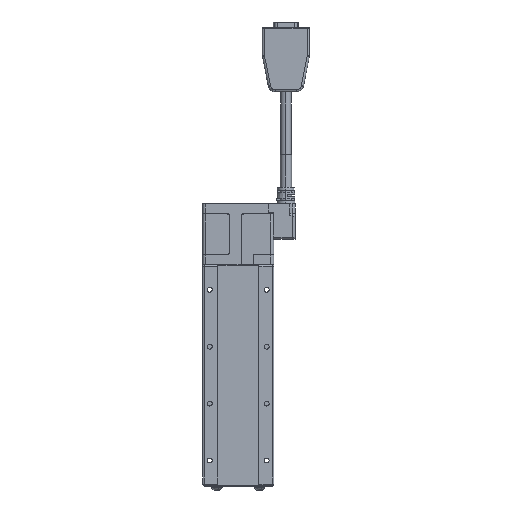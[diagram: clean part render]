
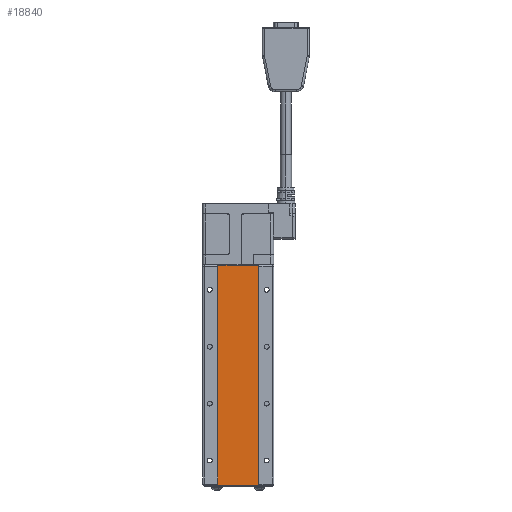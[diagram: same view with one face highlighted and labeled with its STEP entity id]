
A CAD part, front view. The second image highlights one B-rep face of the part: STEP entity #18840.
In plain terms, the highlighted planar face has unit normal (0, -1, 0).
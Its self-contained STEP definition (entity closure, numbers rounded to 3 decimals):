
#548 = VERTEX_POINT ( 'NONE', #71950 ) ;
#7458 = VERTEX_POINT ( 'NONE', #86684 ) ;
#18840 = ADVANCED_FACE ( 'NONE', ( #142174 ), #175360, .F. ) ;
#21532 = ORIENTED_EDGE ( 'NONE', *, *, #194960, .T. ) ;
#23937 = CARTESIAN_POINT ( 'NONE',  ( 14.3, 0.8, 0.2 ) ) ;
#24724 = VERTEX_POINT ( 'NONE', #176478 ) ;
#30654 = DIRECTION ( 'NONE',  ( -1., 0., 0. ) ) ;
#32886 = CARTESIAN_POINT ( 'NONE',  ( -14.3, 0.8, 154.8 ) ) ;
#35184 = CARTESIAN_POINT ( 'NONE',  ( -14.3, 0.8, 0.2 ) ) ;
#44006 = DIRECTION ( 'NONE',  ( 0., 0., -1. ) ) ;
#59008 = LINE ( 'NONE', #124390, #136346 ) ;
#61322 = EDGE_CURVE ( 'NONE', #24724, #548, #59008, .T. ) ;
#67136 = LINE ( 'NONE', #32886, #211299 ) ;
#68388 = DIRECTION ( 'NONE',  ( 1., 0., 0. ) ) ;
#71950 = CARTESIAN_POINT ( 'NONE',  ( -14.3, 0.8, 0.2 ) ) ;
#86684 = CARTESIAN_POINT ( 'NONE',  ( 14.3, 0.8, 154.8 ) ) ;
#98507 = DIRECTION ( 'NONE',  ( 0., 0., 1. ) ) ;
#115405 = AXIS2_PLACEMENT_3D ( 'NONE', #159272, #143241, #30654 ) ;
#115419 = DIRECTION ( 'NONE',  ( -1., 0., 0. ) ) ;
#116851 = ORIENTED_EDGE ( 'NONE', *, *, #152260, .T. ) ;
#124390 = CARTESIAN_POINT ( 'NONE',  ( -14.3, 0.8, 0.2 ) ) ;
#134844 = LINE ( 'NONE', #35184, #197827 ) ;
#136346 = VECTOR ( 'NONE', #44006, 1000. ) ;
#142174 = FACE_OUTER_BOUND ( 'NONE', #209342, .T. ) ;
#142326 = VECTOR ( 'NONE', #98507, 1000. ) ;
#143241 = DIRECTION ( 'NONE',  ( 0., 1., 0. ) ) ;
#149963 = LINE ( 'NONE', #178929, #142326 ) ;
#152260 = EDGE_CURVE ( 'NONE', #7458, #24724, #67136, .T. ) ;
#159272 = CARTESIAN_POINT ( 'NONE',  ( -14.3, 0.8, 154.8 ) ) ;
#163254 = EDGE_CURVE ( 'NONE', #548, #188118, #134844, .T. ) ;
#175360 = PLANE ( 'NONE',  #115405 ) ;
#176478 = CARTESIAN_POINT ( 'NONE',  ( -14.3, 0.8, 154.8 ) ) ;
#178929 = CARTESIAN_POINT ( 'NONE',  ( 14.3, 0.8, 0.2 ) ) ;
#188118 = VERTEX_POINT ( 'NONE', #23937 ) ;
#194960 = EDGE_CURVE ( 'NONE', #188118, #7458, #149963, .T. ) ;
#197827 = VECTOR ( 'NONE', #68388, 1000. ) ;
#204697 = ORIENTED_EDGE ( 'NONE', *, *, #163254, .T. ) ;
#209342 = EDGE_LOOP ( 'NONE', ( #210781, #204697, #21532, #116851 ) ) ;
#210781 = ORIENTED_EDGE ( 'NONE', *, *, #61322, .T. ) ;
#211299 = VECTOR ( 'NONE', #115419, 1000. ) ;
